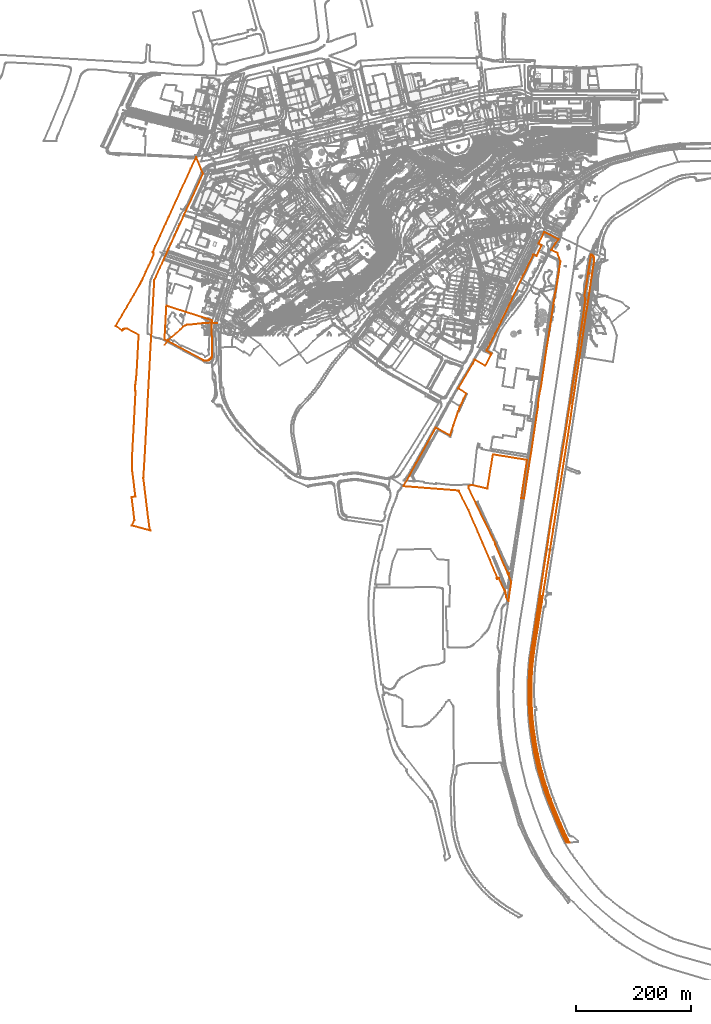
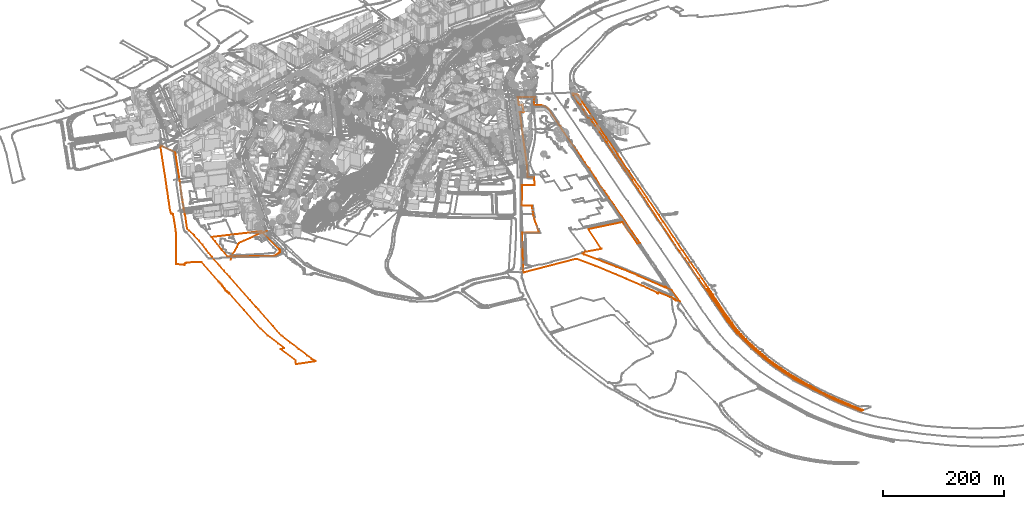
# Not in any storey, part 97 of 477: 3 geographic elements, 2 civil elements.
"""IFC4 model written with IfcOpenShell, lengths in metres."""

from ifc_helpers import new_model, entity, si_unit, frame, origin_with_axes, place, context, subcontext, project, spatial, element, save


model = new_model("IFC4")

# Units and contexts
model_context = context("Model", 3, precision=1e-05, world=origin_with_axes())
body_context = subcontext(model_context, "Body", "Model", "MODEL_VIEW")
ifc_project = project(units=[si_unit("AREAUNIT", "SQUARE_METRE"), si_unit("LENGTHUNIT", "METRE")], contexts=[model_context])

# Sites
site_1_placement = place(None, origin_with_axes())
site_1 = spatial("IfcSite", under=ifc_project, at=site_1_placement, Name="Topoexport Site")
site_2_placement = place(site_1_placement, origin_with_axes())
site_2 = spatial("IfcSite", under=site_1, at=site_2_placement, Name="TPX_ROADS")

# Civil element
civil_element_1_placement = place(site_2_placement, frame((-66.2382679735, -18.0902562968, 525.193), z_axis=(0.0, 0.0, 1.0), x_axis=(1.0, 0.0, 0.0)))
element("IfcCivilElement", 1, at=civil_element_1_placement, inside=site_2, Name="Road 150", ObjectType="ROAD", context=body_context, shape_type="GeometricCurveSet", body=[
    entity("IfcGeometricCurveSet", [entity("IfcIndexedPolyCurve", entity("IfcCartesianPointList3D", [[0.0, 0.0, 0.0], [6.6190000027, 8.4589997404, -0.045], [12.1870000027, 14.2589995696, 0.346], [19.8419999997, 19.826999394, 0.284], [27.4990000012, 26.5549991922, 0.706], [32.3709999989, 32.1219990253, 0.89], [35.6750000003, 34.3719989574, 0.965], [39.5620000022, 35.370998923, 0.911], [46.5219999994, 35.8349989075, 1.02], [58.355, 37.2269988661, 1.269], [72.041999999, 38.6189988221, 2.288], [80.8590000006, 38.8509988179, 2.693], [91.8810000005, 38.5539988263, 2.688]]))]),
])

# Site
site_3_placement = place(site_1_placement, origin_with_axes())
site_3 = spatial("IfcSite", under=site_1, at=site_3_placement, Name="TPX_ROADS_OUTLINES")

# Civil element
civil_element_2_placement = place(site_3_placement, frame((568.6067320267, -620.2152839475, 501.975737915), z_axis=(0.0, 0.0, 1.0), x_axis=(1.0, 0.0, 0.0)))
element("IfcCivilElement", 2, at=civil_element_2_placement, inside=site_3, Name="Roads Outline 110", ObjectType="ROAD", context=body_context, shape_type="GeometricCurveSet", body=[
    entity("IfcGeometricCurveSet", [entity("IfcIndexedPolyCurve", entity("IfcCartesianPointList3D", [[0.0, 0.0, 0.0], [0.074, 6.058, -0.0008581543], [0.216, 12.1140000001, -0.0025048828], [0.423, 18.169, -0.0049053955], [0.6970000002, 24.22, -0.0066101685], [1.037, 30.2689999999, -0.0065790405], [1.4440000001, 36.3129999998, -0.0065417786], [1.9180000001, 42.3529999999, -0.0082456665], [2.4569999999, 48.3869999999, -0.0109104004], [2.977, 53.625, -0.0070631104], [3.551, 58.8570000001, -0.0008270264], [4.6239999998, 66.9239999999, 0.0222953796], [5.747, 74.9849999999, 0.0247244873], [6.9199999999, 83.0379999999, 0.0336768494], [9.6520000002, 100.5659999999, -0.0611358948], [14.8670000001, 135.169, -0.0036011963], [18.6880000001, 159.4409999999, 0.1321560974], [19.503, 165.253, 0.1411845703], [19.6040000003, 165.8329999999, 0.1427294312], [20.4100000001, 170.487, 0.1620628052], [20.5040000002, 171.0289999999, 0.1643175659], [21.2220000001, 175.487, 0.1805467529], [23.8990000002, 194.0360000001, 0.186010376], [24.148, 195.672, 0.1871958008], [24.318, 196.787, 0.188005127], [33.7290000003, 258.655, -0.2722614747], [37.3160000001, 283.058, -1.1686599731], [40.497, 302.5970000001, -1.1722862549], [44.46, 327.443, -1.1360731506], [51.3939999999, 369.362, -1.1387459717], [54.716, 391.45, -1.1532310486], [63.6140000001, 445.0119999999, -1.1895050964], [67.821, 472.3389999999, -1.1724389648], [72.1350000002, 500.3149999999, -1.1918443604], [76.3029999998, 528.5060000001, -1.1274802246], [80.1669999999, 554.2989999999, -1.1873198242], [83.3850000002, 575.5349999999, -1.1006702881], [89.233, 613.9749999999, 0.7361196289], [95.7489999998, 657.0759999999, 0.7942645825], [99.0520000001, 681.024, 0.9663088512], [97.6060000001, 688.959, 0.7845889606], [101.5150000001, 711.341, 1.2635206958], [103.7960000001, 727.121, 1.577916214], [106.2439999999, 726.747, 1.6538060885], [106.304, 727.142, 1.6608155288], [103.8569999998, 727.5160000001, 1.6076824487], [108.4530000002, 757.2050000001, 2.5203351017], [108.0830000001, 757.385, 2.5600871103], [109.2400000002, 759.7169999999, 2.4624631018], [109.713, 759.4849999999, 2.4081204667], [110.4050000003, 759.044, 2.3776317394], [111.057, 758.5459999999, 2.3438039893], [111.6639999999, 757.9939999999, 2.3172211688], [112.2220000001, 757.392, 2.3171706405], [112.727, 756.7449999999, 2.3392560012], [113.1750000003, 756.058, 2.332768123], [113.5630000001, 755.335, 2.304315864], [113.8939999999, 754.5659999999, 2.2908242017], [114.1570000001, 753.7709999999, 2.2643686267], [114.3500000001, 752.9569999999, 2.2278802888], [114.4720000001, 752.128, 2.2351414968], [114.5219999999, 751.2930000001, 2.1973674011], [114.4980000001, 750.456, 2.1555936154], [114.4029999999, 749.6240000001, 2.130633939], [110.4739999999, 723.402, 1.4649871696], [108.3450000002, 709.4409999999, 1.2927663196], [100.2370000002, 655.7249999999, 0.7095744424], [95.8769999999, 626.8540000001, 0.6976692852], [88.0240000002, 574.679, 0.2772061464], [85.75, 559.5959999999, -0.9008512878], [80.4870000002, 524.6839999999, -1.1909428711], [76.5759999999, 498.925, -1.1364573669], [73.5649999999, 476.7309999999, -1.1513120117], [68.9530000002, 445.8499999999, -1.2243086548], [60.2340000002, 390.274, -1.2055106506], [57.2850000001, 371.2590000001, -1.1775828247], [50.077, 325.2749999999, -1.123829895], [46.4449999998, 302.1979999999, -1.1230756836], [43.1779999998, 281.226, -1.1444847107], [39.8880000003, 260.2849999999, -1.1779361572], [33.9210000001, 222.1850000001, -0.3636560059], [29.3820000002, 193.236, 0.3308495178], [26.7549999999, 176.4919999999, 0.1766451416], [25.1430000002, 166.5600000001, 0.1818431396], [24.4360000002, 161.804, 0.1885668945], [23.2400000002, 154.0999999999, 0.1833579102], [21.8190000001, 145.2709999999, 0.1865919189], [19.4220000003, 130.102, 0.140287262], [14.7620000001, 100.4720000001, -0.0078661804], [11.3510000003, 78.699, -0.0565014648], [10.398, 72.3959999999, -0.0620693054], [9.5150000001, 66.0829999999, -0.0597801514], [8.7009999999, 59.76, -0.0415466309], [8.0079999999, 53.8799999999, -0.0097011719], [7.375, 47.9919999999, 0.0190554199], [6.8020000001, 42.0989999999, 0.0374687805], [6.3229999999, 36.2679999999, 0.0388221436], [5.9169999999, 30.432, 0.0288852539], [5.5840000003, 24.591, 0.0207350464], [5.324, 18.746, 0.0209068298], [5.1370000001, 12.899, 0.021277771], [5.0240000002, 7.0489999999, 0.0215019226], [4.983, 1.199, 0.021583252], [5.014, -5.1440000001, 0.021521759], [5.1180000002, -11.486, 0.0213154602], [5.2940000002, -17.827, 0.0209663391], [5.5430000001, -24.165, 0.0204724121], [5.8640000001, -30.5, 0.0275880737], [6.2570000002, -36.831, 0.0372067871], [6.7540000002, -43.5109999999, 0.039011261], [7.3300000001, -50.1840000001, 0.0205014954], [7.9849999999, -56.8500000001, -0.008519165], [8.719, -63.507, -0.0419498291], [9.5320000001, -70.156, -0.0601609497], [10.3020000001, -75.9790000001, -0.0619491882], [11.1350000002, -81.794, -0.0581032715], [12.0329999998, -87.5989999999, -0.0598187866], [12.9939999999, -93.3940000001, -0.0642133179], [14.0180000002, -99.1780000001, -0.0414618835], [15.1609999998, -105.2450000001, 0.0083407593], [16.375, -111.298, 0.0654055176], [17.659, -117.3360000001, 0.1205064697], [19.0120000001, -123.3600000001, 0.1357453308], [20.4360000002, -129.3670000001, 0.1626864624], [21.8930000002, -135.209, 0.1860567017], [23.415, -141.034, 0.1839346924], [25.0019999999, -146.841, 0.1836589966], [26.6540000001, -152.6310000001, 0.1712295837], [28.3710000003, -158.4010000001, 0.2535772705], [30.1520000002, -164.152, 0.358254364], [31.9980000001, -169.8830000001, 0.3377287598], [34.2439999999, -176.4950000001, -0.5174082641], [36.551, -183.085, -1.1601147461], [38.9169999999, -189.655, -1.1816155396], [52.554, -223.6240000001, -1.1411969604], [55.6860000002, -230.9440000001, -1.1624337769], [58.8769999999, -238.2380000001, -1.1926525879], [62.1269999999, -245.507, -1.2003508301], [65.4350000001, -252.7490000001, -1.1762232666], [68.8020000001, -259.9639999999, -1.2214838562], [71.747, -265.2409999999, -1.1819691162], [69.861, -265.3430000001, -1.2289047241], [67.551, -260.655, -1.1577392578], [64.165, -253.422, -1.1854862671], [60.8450000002, -246.159, -1.2075300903], [57.5890000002, -238.8659999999, -1.1804675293], [54.3999999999, -231.544, -1.1502371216], [51.2760000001, -224.1940000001, -1.1373919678], [48.2760000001, -216.9580000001, -1.1130236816], [45.3399999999, -209.6950000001, -1.1302992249], [42.4679999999, -202.4070000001, -1.149608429], [39.6609999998, -195.094, -1.1800421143], [37.4250000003, -189.0760000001, -1.1698774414], [35.2400000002, -183.04, -0.9915582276], [33.105, -176.986, 0.0227229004], [31.02, -170.9140000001, 0.3746740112], [29.1529999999, -165.129, 0.3113724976], [27.355, -159.3219999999, 0.2088167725], [25.6260000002, -153.493, 0.1758058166], [23.9670000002, -147.645, 0.1863341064], [22.378, -141.777, 0.1825488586], [20.8590000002, -135.8910000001, 0.1723934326], [19.4100000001, -129.987, 0.1401543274], [18.1540000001, -124.7150000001, 0.1261259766], [16.9479999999, -119.432, 0.0919393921], [15.7940000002, -114.1370000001, 0.0362030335], [14.6910000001, -108.831, -0.0107501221], [13.639, -103.5150000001, -0.0591696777], [12.6180000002, -98.024, -0.0654296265], [11.6540000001, -92.5220000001, -0.0557590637], [10.7489999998, -87.0109999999, -0.0609657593], [9.9020000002, -81.49, -0.0614487], [9.1129999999, -75.96, -0.0507753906], [8.3820000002, -70.423, -0.0289216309], [7.5989999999, -64.0190000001, 0.0113179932], [6.892, -57.6060000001, 0.0345766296], [6.2590000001, -51.186, 0.0372557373], [5.7009999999, -44.7590000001, 0.0235986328], [5.219, -38.325, 0.0211151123], [4.8020000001, -31.8419999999, 0.0219422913], [4.46, -25.3540000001, 0.0198463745], [4.1910000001, -18.8630000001, 0.0136566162], [3.997, -12.3700000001, 0.009192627], [3.8769999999, -5.8740000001, 0.0064313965], [3.8310000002, 0.622, 0.0053729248], [3.8259999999, 1.662, 0.0052578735], [3.8229999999, 2.702, 0.0051888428], [3.8530000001, 8.2849999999, 0.0058791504], [3.9550000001, 13.8669999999, 0.0082261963], [4.1299999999, 19.4469999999, 0.0122529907], [4.378, 25.0249999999, 0.0179595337], [4.6979999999, 30.598, 0.0221485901], [5.091, 36.1669999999, 0.0213690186], [5.5559999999, 41.7309999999, 0.0204466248], [6.094, 47.2879999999, 0.0332173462], [6.7960000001, 53.419, 0.0376615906], [7.5389999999, 59.5449999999, 0.0137852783], [8.3710000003, 66.01, -0.0283563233], [9.2489999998, 72.4679999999, -0.0538217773], [10.173, 78.9199999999, -0.0617877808], [11.2489999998, 86.1189999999, -0.0572578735], [12.378, 93.3100000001, -0.0635143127], [13.5589999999, 100.4919999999, -0.0623856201], [17.5189999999, 125.79, 0.1172064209], [22.176, 155.5559999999, 0.1840098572], [23.3450000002, 162.733, 0.1837039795], [21.5279999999, 164.2239999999, 0.1874197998], [20.7620000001, 159.1169999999, 0.1702147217], [16.9709999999, 135.1639999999, 0.0929571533], [11.4279999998, 100.5899999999, -0.0559304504], [8.7110000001, 82.612, -0.0417706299], [7.8059999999, 76.7309999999, 0.0006799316], [6.9530000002, 70.8419999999, 0.032616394], [6.1520000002, 64.9450000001, 0.0346369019], [5.4029999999, 59.0419999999, 0.0207501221], [4.7579999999, 53.5759999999, 0.0220295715], [4.1579999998, 48.1040000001, 0.0128972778], [3.591, 42.1529999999, -0.0001495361], [3.1010000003, 36.1950000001, -0.0057159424], [2.6890000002, 30.2309999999, -0.0101920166], [2.3540000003, 24.263, -0.0104011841], [2.0959999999, 18.29, -0.0091256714], [1.9160000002, 12.3149999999, -0.0082357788], [1.8140000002, 6.338, -0.0077315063], [1.7889999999, 0.3599999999, -0.0076079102], [1.8360000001, -6.1170000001, -0.007840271], [1.9569999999, -12.5919999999, -0.0084384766], [2.1520000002, -19.0660000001, -0.0094025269], [2.4210000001, -25.537, -0.0107324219], [2.764, -32.0050000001, -0.0093771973], [3.1809999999, -38.4680000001, -0.0048468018], [3.6770000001, -44.996, 0.0018293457], [4.2480000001, -51.5179999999, 0.0149682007], [4.895, -58.0320000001, 0.0217578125], [5.6170000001, -64.5390000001, 0.0215427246], [6.4139999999, -71.037, 0.0410493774], [7.2170000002, -77.108, 0.0241327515], [8.091, -83.169, -0.0139666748], [9.0389999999, -89.219, -0.0491177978], [10.0580000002, -95.257, -0.0616438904], [11.1490000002, -101.2830000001, -0.0579994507], [12.2430000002, -106.888, -0.0620682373], [13.3930000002, -112.4810000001, -0.0629226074], [14.5989999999, -118.0620000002, -0.0144870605], [15.8620000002, -123.6310000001, 0.0396208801], [17.1800000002, -129.1870000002, 0.1022055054], [18.673, -135.243, 0.1319899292], [20.236, -141.2820000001, 0.1578890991], [21.8689999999, -147.301, 0.1862302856], [23.5720000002, -153.3020000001, 0.1844536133], [25.344, -159.2830000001, 0.1792545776], [27.1850000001, -165.2420000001, 0.1997014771], [29.0950000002, -171.1799999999, 0.3064394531], [31.1779999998, -177.2860000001, 0.3775767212], [33.3100000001, -183.375, -0.0739589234], [35.4930000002, -189.4469999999, -1.112005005], [37.7250000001, -195.5, -1.1731248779], [49.5270000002, -225.2490000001, -1.1179465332], [52.122, -231.3260000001, -1.1410123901], [54.7710000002, -237.3800000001, -1.1537530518], [57.4739999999, -243.4100000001, -1.1793766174], [60.2310000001, -249.416, -1.2054821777], [63.04, -255.3970000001, -1.1936916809], [65.9029999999, -261.3530000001, -1.1728098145], [67.9279999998, -265.4469999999, -1.178819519], [65.9790000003, -265.5530000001, -1.1722554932], [64.5929999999, -262.912, -1.182364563], [61.6710000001, -256.8090000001, -1.2036767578], [58.804, -250.6810000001, -1.1919619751], [55.9920000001, -244.527, -1.1653286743], [53.2349999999, -238.348, -1.1419945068], [50.534, -232.1440000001, -1.1288924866], [47.889, -225.9170000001, -1.1144881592], [45.4309999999, -219.986, -1.1297021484], [43.0240000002, -214.034, -1.1454951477], [40.6669999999, -208.0620000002, -1.1704425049], [38.3620000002, -202.0700000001, -1.1798121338], [36.108, -196.058, -1.1551531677], [33.196, -188.2690000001, -0.020194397], [30.341, -180.459, 0.3619400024], [27.5449999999, -172.628, 0.2190044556], [24.8059999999, -164.777, 0.1861831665], [22.9810000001, -158.9950000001, 0.1825042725], [21.2290000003, -153.1899999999, 0.1807039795], [19.5500000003, -147.3630000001, 0.1417052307], [17.9449999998, -141.5160000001, 0.1237532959], [16.415, -135.649, 0.0674160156], [14.9580000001, -129.763, 9.51233e-05], [13.6340000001, -124.142, -0.0594032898], [12.3769999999, -118.5060000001, -0.0635036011], [11.1869999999, -112.855, -0.0577176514], [10.0649999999, -107.1899999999, -0.0616526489], [9.0090000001, -101.513, -0.0484458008], [7.9569999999, -95.4739999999, -0.0070802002], [6.98, -89.422, 0.0317487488], [6.0789999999, -83.3589999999, 0.0328502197], [5.2519999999, -77.2850000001, 0.0210496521], [4.5010000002, -71.2010000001, 0.0207897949], [3.7119999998, -64.6510000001, 0.0026347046], [2.9870000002, -58.0930000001, -0.0069544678], [2.327, -51.5279999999, -0.0102677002], [1.7319999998, -44.9569999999, -0.0073261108], [1.202, -38.3810000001, -0.0065639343], [0.804, -31.9920000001, -0.0066003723], [0.486, -25.5989999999, -0.0056359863], [0.2460000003, -19.202, -0.0028527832], [0.085, -12.8020000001, -0.0009857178], [0.003, -6.4010000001, -3.479e-05], [0.0, 0.0, 0.0]]))]),
])

# Site
site_4_placement = place(site_1_placement, origin_with_axes())
site_4 = spatial("IfcSite", under=site_1, at=site_4_placement, Name="TPX_CADASTRES")

# Geographic elements
geographic_element_1_placement = place(site_4_placement, frame((-151.4392679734, 15.1087160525, 526.5745130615), z_axis=(0.0, 0.0, 1.0), x_axis=(1.0, 0.0, 0.0)))
element("IfcGeographicElement", 3, at=geographic_element_1_placement, inside=site_4, Name="Cadastre 79", PredefinedType="NOTDEFINED", context=body_context, shape_type="GeometricCurveSet", body=[
    entity("IfcGeometricCurveSet", [entity("IfcIndexedPolyCurve", entity("IfcCartesianPointList3D", [[0.0, 0.0, 0.0], [11.2420000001, 19.2179999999, 1.8378331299], [19.8540000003, 34.0459999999, 2.238164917], [25.9750000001, 44.564, 2.198105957], [32.1070000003, 55.112, 2.2129320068], [41.2490000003, 70.8489999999, 0.0601470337], [42.4730000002, 72.9679999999, -0.5668779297], [43.6510000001, 75.112, -0.615623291], [44.784, 77.28, -0.6783294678], [45.8700000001, 79.4719999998, -0.3021656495], [46.9100000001, 81.6869999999, 0.2162202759], [52.4810000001, 93.885, 2.7616265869], [57.5520000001, 104.976, 2.7704937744], [66.3940000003, 124.3810000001, 1.2715860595], [66.5690000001, 124.8699999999, 1.2168814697], [66.6720000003, 125.379, 1.1602154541], [66.7010000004, 125.898, 1.1026617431], [66.6540000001, 126.416, 1.0453415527], [66.534, 126.9209999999, 0.9949597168], [66.335, 127.3999999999, 0.9492933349], [66.0690000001, 127.845, 0.9194085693], [65.7430000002, 128.247, 0.8988963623], [65.3620000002, 128.598, 0.881133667], [64.9340000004, 128.8909999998, 0.8673814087], [69.0250000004, 138.943, 0.9522406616], [77.3760000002, 157.1979999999, 1.2580904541], [86.9480000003, 178.122, 4.8549669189], [92.5460000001, 190.365, 5.8879879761], [105.3420000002, 218.3499999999, 8.021800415], [112.5600000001, 234.1339999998, 8.4576126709], [131.0440000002, 274.5619999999, 10.465953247], [140.5520000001, 294.736, 11.0744136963], [152.3080000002, 265.7859999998, 10.3141712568], [119.4990000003, 194.014, 5.9881429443], [110.2800000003, 173.8659999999, 3.6375777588], [105.699, 163.8540000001, 0.9906082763], [101.128, 153.861, 0.8605761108], [96.3470000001, 143.409, 0.9385133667], [90.926, 131.5559999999, 0.8489379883], [83.4350000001, 115.0819999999, 2.3084556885], [77.2940000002, 101.629, 2.7609389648], [70.2320000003, 86.166, 1.2027474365], [67.4620000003, 80.094, -0.1515369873], [67.0810000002, 73.1850000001, -0.5702023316], [66.0900000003, 54.9269999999, 2.2207231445], [65.0989999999, 36.639, 2.226826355], [64.4180000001, 24.1599999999, 2.0154377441], [63.6770000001, 10.591, 0.9102993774], [63.1370000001, 0.612, 0.1743638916], [62.5360000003, -10.2860000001, -0.8857200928], [62.4960000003, -11.1060000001, -0.891859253], [60.8740000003, -38.9030000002, -0.8740125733], [60.0730000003, -54.4620000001, -0.8740125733], [59.0320000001, -74.51, -0.8740125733], [54.9330000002, -149.9210000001, -0.8740125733], [55.0330000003, -149.926, -0.8740125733], [53.8149999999, -171.9790000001, -0.8740125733], [53.3310000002, -180.879, -0.8740125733], [50.4410000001, -233.993, -0.8740125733], [48.409, -264.7490000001, -0.8740125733], [51.3280000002, -288.7879999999, -0.8740125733], [54.1570000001, -312.0160000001, -0.8740125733], [56.986, -335.304, -0.8740125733], [58.5250000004, -347.7830000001, -0.8740125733], [59.2949999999, -352.3419999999, -0.8740125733], [60.764, -356.7410000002, -0.8740125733], [28.3230000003, -347.76, -0.8740125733], [32.8930000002, -337.9510000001, -0.8740125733], [28.0410000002, -298.1360000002, -0.8740125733], [29.6159999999, -297.9440000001, -0.8740125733], [34.5860000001, -297.3840000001, -0.8740125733], [32.6170000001, -281.0860000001, -0.8740125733], [29.1580000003, -252.5280000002, -0.8740125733], [28.6890000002, -229.5900000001, -0.8740125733], [31.8829999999, -170.5660000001, -0.8740125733], [34.747, -117.4010000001, -0.8740125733], [34.7779999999, -116.199, -0.8740125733], [34.736, -114.997, -0.8740125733], [34.622, -113.8, -0.8740125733], [34.4369999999, -112.612, -0.8740125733], [34.2620000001, -111.531, -0.8740125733], [34.1470000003, -110.4410000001, -0.8740125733], [34.0920000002, -109.3470000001, -0.8740125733], [34.0970000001, -108.2520000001, -0.8740125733], [34.2140000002, -105.686, -0.8740125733], [34.3970000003, -103.1230000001, -0.8740125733], [34.645, -100.5590000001, -0.8740125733], [34.9580000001, -98.003, -0.8740125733], [35.3940000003, -94.632, -0.8740125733], [35.784, -91.2560000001, -0.8740125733], [36.1290000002, -87.8740000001, -0.8740125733], [36.429, -84.4850000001, -0.8740125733], [36.682, -81.0919999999, -0.8740125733], [36.889, -77.696, -0.8740125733], [40.253, -15.452, -0.8740125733], [20.415, -4.8030000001, -0.769428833], [19.7170000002, -4.55, -0.7647962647], [18.9960000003, -4.371, -0.7611260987], [18.2600000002, -4.27, -0.7586849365], [17.5180000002, -4.247, -0.7581290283], [16.7770000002, -4.3030000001, -0.759482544], [16.0460000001, -4.4370000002, -0.7627213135], [15.3340000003, -4.6470000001, -0.7665723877], [14.6529999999, -4.929, -0.7717359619], [14.0040000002, -5.281, -0.7781812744], [13.3970000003, -5.7, -0.7933532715], [12.8370000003, -6.1800000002, -0.8158825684], [12.3300000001, -6.716, -0.836560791], [11.8829999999, -7.3020000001, -0.8546229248], [11.4990000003, -7.932, -0.8570660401], [0.0, 0.0, 0.0]]))]),
])
geographic_element_2_placement = place(site_4_placement, frame((-66.0912679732, -8.2502839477, 525.7005004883), z_axis=(0.0, 0.0, 1.0), x_axis=(1.0, 0.0, 0.0)))
element("IfcGeographicElement", 4, at=geographic_element_2_placement, inside=site_4, Name="Cadastre 81", PredefinedType="NOTDEFINED", context=body_context, shape_type="GeometricCurveSet", body=[
    entity("IfcGeometricCurveSet", [entity("IfcIndexedPolyCurve", entity("IfcCartesianPointList3D", [[0.0, 0.0, 0.0], [1.2409999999, 22.6880000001, 0.6721157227], [1.7820000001, 32.6660000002, 1.6397720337], [2.523, 46.2550000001, 2.8576787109], [3.213, 58.7540000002, 3.0991626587], [83.3489999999, 33.0110000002, 2.5261064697], [81.9789999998, 28.8800000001, 2.3993199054], [83.287, -25.8579999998, 1.4844741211], [83.2760000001, -26.6309999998, 1.4848984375], [83.2110000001, -27.4009999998, 1.4910874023], [83.0919999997, -28.1649999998, 1.5032314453], [82.9199999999, -28.9179999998, 1.5207841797], [82.696, -29.6579999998, 1.5436435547], [82.4270000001, -30.379, 1.5710952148], [82.1089999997, -31.0799999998, 1.6375219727], [81.7429999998, -31.7579999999, 1.7525894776], [81.3319999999, -32.4079999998, 1.8818046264], [80.8759999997, -33.0289999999, 2.0237521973], [80.3759999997, -33.6169999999, 2.1791477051], [79.8360000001, -34.1679999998, 2.3280258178], [79.2590000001, -34.6809999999, 2.4796447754], [78.648, -35.152, 2.4926971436], [78.0060000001, -35.5799999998, 2.5029284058], [77.3319999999, -35.9559999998, 2.5083997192], [76.6329999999, -36.284, 2.4685400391], [75.9139999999, -36.5629999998, 2.3950143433], [75.176, -36.7919999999, 2.2792191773], [74.4249999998, -36.9689999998, 2.0839060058], [73.6639999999, -37.102, 1.7715206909], [72.8959999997, -37.1809999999, 1.4809986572], [72.125, -37.2069999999, 1.2279809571], [71.3530000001, -37.1789999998, 0.8903723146], [70.585, -37.098, 0.6476945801], [69.8289999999, -36.96, 0.4431420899], [69.085, -36.7699999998, 0.2735830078], [68.355, -36.5289999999, 0.1533272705], [67.6439999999, -36.2379999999, 0.0872421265], [66.9550000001, -35.8979999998, 0.0373287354], [0.0, 0.0, 0.0]]))]),
])
geographic_element_3_placement = place(site_4_placement, frame((350.3227320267, -264.1862839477, 503.2477230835), z_axis=(0.0, 0.0, 1.0), x_axis=(1.0, 0.0, 0.0)))
element("IfcGeographicElement", 5, at=geographic_element_3_placement, inside=site_4, Name="Cadastre 147", PredefinedType="NOTDEFINED", context=body_context, shape_type="GeometricCurveSet", body=[
    entity("IfcGeometricCurveSet", [entity("IfcIndexedPolyCurve", entity("IfcCartesianPointList3D", [[0.0, 0.0, 0.0], [10.6000000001, 18.621, -0.2825669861], [22.4500000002, 40.7170000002, -0.5289651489], [53.5830000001, 96.8330000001, -1.0836112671], [56.6129999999, 102.1930000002, -1.1209400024], [81.2850000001, 88.3530000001, -1.3441882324], [87.2310000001, 106.223, -1.2342042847], [91.5720000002, 119.3530000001, -1.2645101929], [93.5619999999, 125.003, -1.279603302], [94.7090000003, 128.1460000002, -1.2756437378], [95.906, 131.27, -1.2735786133], [97.1520000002, 134.3740000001, -1.2660647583], [98.4789999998, 137.6070000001, -1.2700553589], [99.8599999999, 140.817, -1.2199867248], [101.2930000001, 144.0040000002, -1.2719567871], [105.2829999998, 152.6040000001, -1.3580748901], [109.6740000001, 161.594, -1.3455012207], [95.3760000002, 170.564, -1.2740407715], [120.8470000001, 213.3250000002, -1.2408973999], [124.4399999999, 220.6300000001, -1.2829025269], [142.7110000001, 209.9550000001, -0.761979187], [152.9870000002, 229.223, -0.8975912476], [152.5529999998, 229.4380000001, -0.90090271], [153.5290000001, 231.0430000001, -0.9197555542], [144.747, 236.2450000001, -0.8859556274], [152.5279999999, 250.6460000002, -0.9016236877], [160.358, 266.0560000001, -1.058708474], [167.8790000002, 281.6460000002, -1.0743693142], [167.9890000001, 281.5960000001, -1.0851980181], [226.6189999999, 404.186, -0.7053849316], [232.1359999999, 401.544, -0.9589194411], [241.034, 420.159, -0.7852908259], [235.52, 422.8010000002, -0.6842505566], [245.2039999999, 443.0530000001, -0.1415204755], [270.952, 430.4640000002, -2.2228779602], [265.3220000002, 424.1030000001, -1.7656507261], [258.0130000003, 411.9710000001, -2.5167092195], [268.7319999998, 406.5220000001, -2.437278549], [273.852, 392.0410000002, -2.3644540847], [266.5440000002, 344.888, -2.5388882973], [264.3050000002, 335.4680000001, -1.9758593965], [262.9350000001, 324.9780000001, -2.3666528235], [250.1400000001, 242.1360000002, -0.9186038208], [247.4390000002, 225.1850000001, -0.9604425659], [244.7390000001, 205.6040000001, -1.1040979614], [240.318, 175.8020000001, -1.0869482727], [235.8369999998, 152.4800000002, -1.153274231], [234.5470000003, 138.0490000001, -1.2122090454], [231.8369999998, 119.4980000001, -1.3343901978], [228.0660000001, 94.767, -1.3332837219], [222.855, 58.8940000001, -1.2495846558], [215.9640000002, 16.091, -1.2828160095], [212.4530000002, -8.5599999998, -1.267366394], [210.3229999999, -21.291, -1.2698099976], [205.4530000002, -20.531, -1.2787252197], [215.5750000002, 45.7640000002, -1.277527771], [156.0869999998, 55.4470000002, -0.818260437], [146.4950000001, -4.3569999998, -0.8156686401], [118.926, 2.165, -1.2108586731], [113.3459999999, 0.175, -1.2675257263], [113.9360000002, -3.3949999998, -1.2788543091], [142.1340000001, -62.2009999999, -0.7487903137], [146.8629999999, -71.5719999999, -0.8096906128], [154.0630000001, -86.5229999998, -0.9227401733], [157.3190000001, -93.8259999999, -0.8035988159], [157.7620000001, -93.5939999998, -0.855634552], [160.6269999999, -100.784, -1.2177380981], [160.1660000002, -100.977, -1.1763623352], [181.9700000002, -151.7589999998, -1.448805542], [183.5600000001, -151.0689999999, -1.4595140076], [184.3199999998, -152.7789999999, -1.4522181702], [182.7200000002, -153.5089999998, -1.4583728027], [188.0890000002, -166.0399999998, -1.3678596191], [183.2280000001, -200.453, -1.4597875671], [179.2390000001, -193.7319999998, -1.4383287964], [179.179, -192.3679999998, -1.4396984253], [179.0529999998, -191.0089999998, -1.442574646], [178.861, -189.6579999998, -1.4469574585], [178.602, -188.3169999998, -1.4424078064], [178.2790000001, -186.9909999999, -1.4364244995], [177.9530000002, -185.6699999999, -1.4303856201], [177.5630000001, -184.3659999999, -1.4383814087], [177.1099999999, -183.0829999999, -1.4536021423], [176.5950000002, -181.8239999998, -1.4644869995], [176.0189999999, -180.591, -1.469619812], [166.5600000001, -160.5589999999, -1.5593609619], [163.7800000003, -161.7589999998, -1.4344792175], [162.9700000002, -160.0589999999, -1.3799732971], [163.8999999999, -159.679, -1.4416423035], [151.1000000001, -128.602, -0.9428059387], [138.3930000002, -99.1129999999, -0.7537919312], [129.8640000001, -79.3319999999, -0.957428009], [113.6209999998, -41.6609999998, -1.2727541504], [97.2620000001, -9.2749999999, -1.2682803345], [97.0049999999, -8.848, -1.2631039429], [96.6890000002, -8.4619999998, -1.2624434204], [96.3220000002, -8.125, -1.2676625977], [95.9279999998, -7.855, -1.2732657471], [95.5, -7.642, -1.2741088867], [95.0470000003, -7.49, -1.2738600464], [0.0, 0.0, 0.0]]))]),
])

save(model, "model.ifc")
